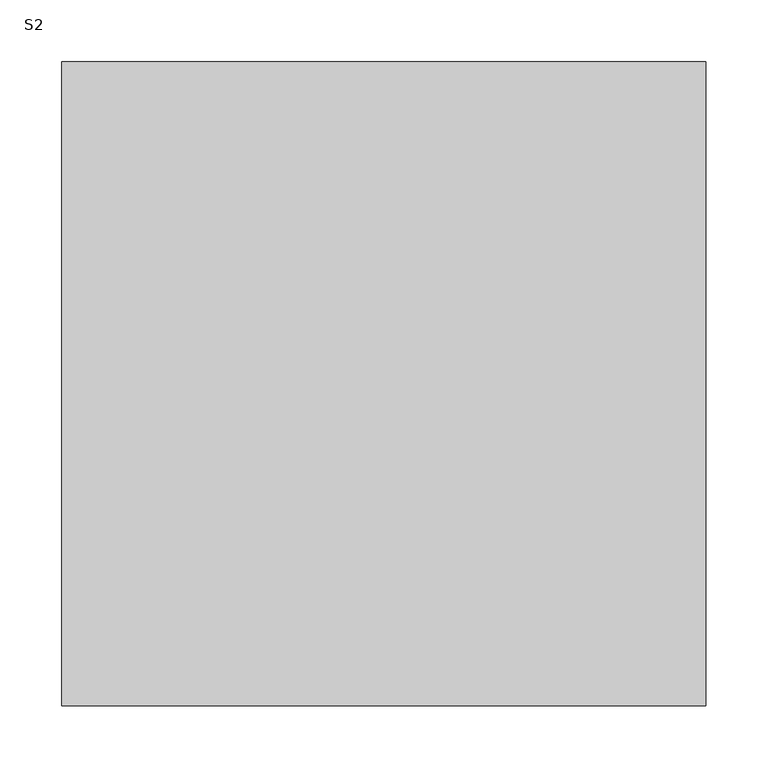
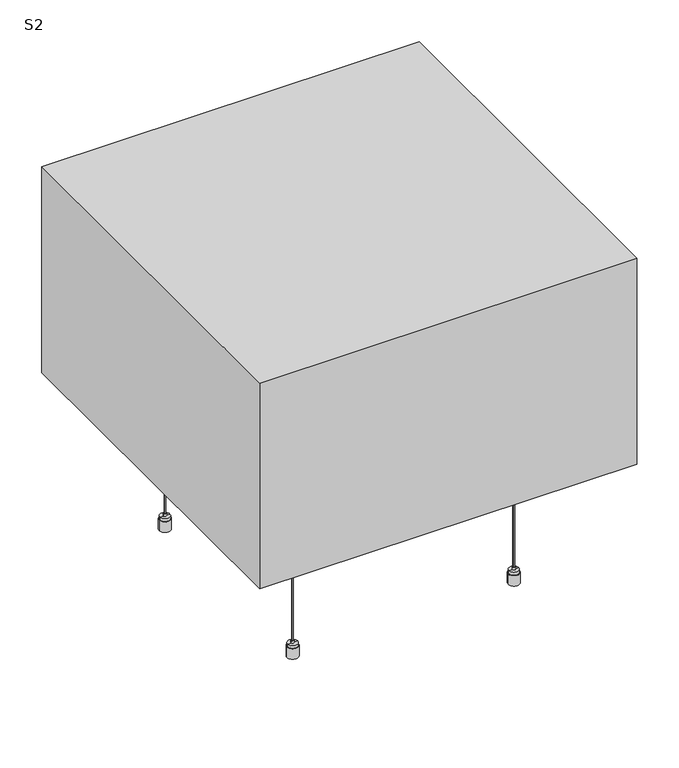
"""IFC4 building model written with IfcOpenShell, lengths in millimetres: proxy geometry, OWA Corpus : S2."""

from ifc_helpers import new_model, si_unit, point, frame, frame_2d, origin, place, context, project, spatial, polyline, circle_curve, trimmed, segment, composite_curve, outline, extrude, faceted_brep, source, transform, mapped, element, save
from ifc_brep_helpers import plane_surface, cylinder_surface, revolved_surface, advanced_brep


def s2_c28525dc(model_context):
    return source(origin(), model_context, "Body", "SolidModel", [
        advanced_brep(
        [(-281.0, -152.5, 0.0), (-273.2593825, -152.5, 0.0), (-288.7406175, -152.5, 0.0), (-273.2593825, -152.5, 15.0), (-288.7406175, -152.5, 15.0), (-274.1843825, -152.5, 15.0), (-287.8156175, -152.5, 15.0), (-274.1843825, -152.5, 19.0), (-287.8156175, -152.5, 19.0), (-278.9343825, -152.5, 19.0), (-283.0656175, -152.5, 19.0), (-278.9343825, -152.5, 22.546183), (-283.0656175, -152.5, 22.546183), (-281.0, -152.5, 22.546183)],
        [
            (0, 1),
            (1, 2, circle_curve(frame((-281.0, -152.5, 0.0), z_axis=(0.0, 0.0, -1.0), x_axis=(-1.0, 0.0, 0.0)), 7.7406175)),
            (2, 0),
            (2, 1, circle_curve(frame((-281.0, -152.5, 0.0), z_axis=(0.0, 0.0, -1.0), x_axis=(-1.0, 0.0, 0.0)), 7.7406175)),
            (1, 3),
            (3, 4, circle_curve(frame((-281.0, -152.5, 15.0), z_axis=(0.0, 0.0, -1.0), x_axis=(-1.0, 0.0, 0.0)), 7.7406175)),
            (4, 2),
            (4, 3, circle_curve(frame((-281.0, -152.5, 15.0), z_axis=(0.0, 0.0, -1.0), x_axis=(-1.0, 0.0, 0.0)), 7.7406175)),
            (3, 5),
            (5, 6, circle_curve(frame((-281.0, -152.5, 15.0), z_axis=(0.0, 0.0, -1.0), x_axis=(-1.0, 0.0, 0.0)), 6.8156175)),
            (6, 4),
            (6, 5, circle_curve(frame((-281.0, -152.5, 15.0), z_axis=(0.0, 0.0, -1.0), x_axis=(-1.0, 0.0, 0.0)), 6.8156175)),
            (5, 7),
            (7, 8, circle_curve(frame((-281.0, -152.5, 19.0), z_axis=(0.0, 0.0, -1.0), x_axis=(-1.0, 0.0, 0.0)), 6.8156175)),
            (8, 6),
            (8, 7, circle_curve(frame((-281.0, -152.5, 19.0), z_axis=(0.0, 0.0, -1.0), x_axis=(-1.0, 0.0, 0.0)), 6.8156175)),
            (7, 9),
            (9, 10, circle_curve(frame((-281.0, -152.5, 19.0), z_axis=(0.0, 0.0, -1.0), x_axis=(-1.0, 0.0, 0.0)), 2.0656175)),
            (10, 8),
            (10, 9, circle_curve(frame((-281.0, -152.5, 19.0), z_axis=(0.0, 0.0, -1.0), x_axis=(-1.0, 0.0, 0.0)), 2.0656175)),
            (9, 11),
            (11, 12, circle_curve(frame((-281.0, -152.5, 22.546183), z_axis=(0.0, 0.0, -1.0), x_axis=(-1.0, 0.0, 0.0)), 2.0656175)),
            (12, 10),
            (12, 11, circle_curve(frame((-281.0, -152.5, 22.546183), z_axis=(0.0, 0.0, -1.0), x_axis=(-1.0, 0.0, 0.0)), 2.0656175)),
            (11, 13),
            (13, 12),
        ],
        [
            plane_surface(frame((-281.0, -152.5, 0.0), z_axis=(0.0, 0.0, -1.0), x_axis=(-1.0, 0.0, 0.0))),
            cylinder_surface(frame((-281.0, -152.5, -10.0), z_axis=(0.0, 0.0, -1.0), x_axis=(-1.0, 0.0, 0.0)), 7.7406175),
            plane_surface(frame((-281.0, -152.5, 15.0), z_axis=(0.0, 0.0, 1.0), x_axis=(-1.0, 0.0, 0.0))),
            cylinder_surface(frame((-281.0, -152.5, -10.0), z_axis=(0.0, 0.0, -1.0), x_axis=(-1.0, 0.0, 0.0)), 6.8156175),
            plane_surface(frame((-281.0, -152.5, 19.0), z_axis=(0.0, 0.0, 1.0), x_axis=(-1.0, 0.0, 0.0))),
            cylinder_surface(frame((-281.0, -152.5, -10.0), z_axis=(0.0, 0.0, -1.0), x_axis=(-1.0, 0.0, 0.0)), 2.0656175),
            plane_surface(frame((-281.0, -152.5, 22.546183), z_axis=(0.0, 0.0, 1.0), x_axis=(-1.0, 0.0, 0.0))),
        ],
        [
            (0, [[1, 2, 3]]),
            (0, [[-3, 4, -1]]),
            (1, [[5, 6, 7, -2]]),
            (1, [[-7, 8, -5, -4]]),
            (2, [[9, 10, 11, -6]]),
            (2, [[-11, 12, -9, -8]]),
            (3, [[13, 14, 15, -10]]),
            (3, [[-15, 16, -13, -12]]),
            (4, [[17, 18, 19, -14]]),
            (4, [[-19, 20, -17, -16]]),
            (5, [[21, 22, 23, -18]]),
            (5, [[-23, 24, -21, -20]]),
            (6, [[25, 26, -22]]),
            (6, [[-26, -25, -24]]),
        ],
    ),
        advanced_brep(
        [(-278.7615389, -152.5, 428.8211737), (-278.6339453, -152.5, 432.8711737), (-283.3660547, -152.5, 432.8711737), (-283.2384611, -152.5, 428.8211737), (-276.1339453, -152.5, 432.8711737), (-285.8660547, -152.5, 432.8711737), (-276.1339453, -152.5, 458.1211737), (-285.8660547, -152.5, 458.1211737), (-265.1339453, -152.5, 458.1211737), (-296.8660547, -152.5, 458.1211737), (-265.1339453, -152.5, 460.0), (-296.8660547, -152.5, 460.0), (-281.0, -152.5, 460.0), (-281.0, -152.5, 428.8211737)],
        [
            (0, 1),
            (1, 2, circle_curve(frame((-281.0, -152.5, 432.8711737), z_axis=(0.0, 0.0, -1.0), x_axis=(-1.0, 0.0, 0.0)), 2.3660547)),
            (2, 3),
            (3, 0, circle_curve(frame((-281.0, -152.5, 428.8211737), z_axis=(0.0, 0.0, 1.0), x_axis=(-1.0, 0.0, 0.0)), 2.2384611)),
            (2, 1, circle_curve(frame((-281.0, -152.5, 432.8711737), z_axis=(0.0, 0.0, -1.0), x_axis=(-1.0, 0.0, 0.0)), 2.3660547)),
            (0, 3, circle_curve(frame((-281.0, -152.5, 428.8211737), z_axis=(0.0, 0.0, 1.0), x_axis=(-1.0, 0.0, 0.0)), 2.2384611)),
            (1, 4),
            (4, 5, circle_curve(frame((-281.0, -152.5, 432.8711737), z_axis=(0.0, 0.0, -1.0), x_axis=(-1.0, 0.0, 0.0)), 4.8660547)),
            (5, 2),
            (5, 4, circle_curve(frame((-281.0, -152.5, 432.8711737), z_axis=(0.0, 0.0, -1.0), x_axis=(-1.0, 0.0, 0.0)), 4.8660547)),
            (4, 6),
            (6, 7, circle_curve(frame((-281.0, -152.5, 458.1211737), z_axis=(0.0, 0.0, -1.0), x_axis=(-1.0, 0.0, 0.0)), 4.8660547)),
            (7, 5),
            (7, 6, circle_curve(frame((-281.0, -152.5, 458.1211737), z_axis=(0.0, 0.0, -1.0), x_axis=(-1.0, 0.0, 0.0)), 4.8660547)),
            (6, 8),
            (8, 9, circle_curve(frame((-281.0, -152.5, 458.1211737), z_axis=(0.0, 0.0, -1.0), x_axis=(-1.0, 0.0, 0.0)), 15.8660547)),
            (9, 7),
            (9, 8, circle_curve(frame((-281.0, -152.5, 458.1211737), z_axis=(0.0, 0.0, -1.0), x_axis=(-1.0, 0.0, 0.0)), 15.8660547)),
            (8, 10),
            (10, 11, circle_curve(frame((-281.0, -152.5, 460.0), z_axis=(0.0, 0.0, -1.0), x_axis=(-1.0, 0.0, 0.0)), 15.8660547)),
            (11, 9),
            (11, 10, circle_curve(frame((-281.0, -152.5, 460.0), z_axis=(0.0, 0.0, -1.0), x_axis=(-1.0, 0.0, 0.0)), 15.8660547)),
            (10, 12),
            (12, 11),
            (13, 0),
            (3, 13),
        ],
        [
            revolved_surface(polyline([(-283.3660547, -152.5, 432.8711737), (-283.2384611, -152.5, 428.8211737)]), (-281.0, -152.5, 461.8401096), (0.0, 0.0, -1.0)),
            plane_surface(frame((-281.0, -152.5, 432.8711737), z_axis=(0.0, 0.0, -1.0), x_axis=(-1.0, 0.0, 0.0))),
            cylinder_surface(frame((-281.0, -152.5, 461.8401096), z_axis=(0.0, 0.0, -1.0), x_axis=(-1.0, 0.0, 0.0)), 4.8660547),
            plane_surface(frame((-281.0, -152.5, 458.1211737), z_axis=(0.0, 0.0, -1.0), x_axis=(-1.0, 0.0, 0.0))),
            cylinder_surface(frame((-281.0, -152.5, 461.8401096), z_axis=(0.0, 0.0, -1.0), x_axis=(-1.0, 0.0, 0.0)), 15.8660547),
            plane_surface(frame((-281.0, -152.5, 460.0), z_axis=(0.0, 0.0, 1.0), x_axis=(-1.0, 0.0, 0.0))),
            plane_surface(frame((-281.0, -152.5, 428.8211737), z_axis=(0.0, 0.0, -1.0), x_axis=(-1.0, 0.0, 0.0))),
        ],
        [
            (0, [[1, 2, 3, 4]]),
            (0, [[-3, 5, -1, 6]]),
            (1, [[7, 8, 9, -2]]),
            (1, [[-9, 10, -7, -5]]),
            (2, [[11, 12, 13, -8]]),
            (2, [[-13, 14, -11, -10]]),
            (3, [[15, 16, 17, -12]]),
            (3, [[-17, 18, -15, -14]]),
            (4, [[19, 20, 21, -16]]),
            (4, [[-21, 22, -19, -18]]),
            (5, [[23, 24, -20]]),
            (5, [[-24, -23, -22]]),
            (6, [[25, -4, 26]]),
            (6, [[-26, -6, -25]]),
        ],
    ),
        extrude(outline(composite_curve([segment(trimmed(circle_curve(frame_2d((-281.0, -152.5)), 1.0), [point((-282.0, -152.5))], [point((-280.0, -152.5))], False, "CARTESIAN"), True, "CONTINUOUS"), segment(trimmed(circle_curve(frame_2d((-281.0, -152.5)), 1.0), [point((-280.0, -152.5))], [point((-282.0, -152.5))], False, "CARTESIAN"), True, "CONTINUOUS")], self_intersect=False)), frame((0.0, 0.0, 22.546183), z_axis=(0.0, 0.0, 1.0), x_axis=(1.0, 0.0, 0.0)), (0.0, 0.0, 1.0), 406.2749908),
        advanced_brep(
        [(-281.0, 152.5, 0.0), (-288.7406175, 152.5, 0.0), (-273.2593825, 152.5, 0.0), (-288.7406175, 152.5, 15.0), (-273.2593825, 152.5, 15.0), (-287.8156175, 152.5, 15.0), (-274.1843825, 152.5, 15.0), (-287.8156175, 152.5, 19.0), (-274.1843825, 152.5, 19.0), (-283.0656175, 152.5, 19.0), (-278.9343825, 152.5, 19.0), (-283.0656175, 152.5, 22.546183), (-278.9343825, 152.5, 22.546183), (-281.0, 152.5, 22.546183)],
        [
            (0, 1),
            (1, 2, circle_curve(frame((-281.0, 152.5, 0.0), z_axis=(0.0, 0.0, -1.0), x_axis=(-1.0, 0.0, 0.0)), 7.7406175)),
            (2, 0),
            (2, 1, circle_curve(frame((-281.0, 152.5, 0.0), z_axis=(0.0, 0.0, -1.0), x_axis=(-1.0, 0.0, 0.0)), 7.7406175)),
            (1, 3),
            (3, 4, circle_curve(frame((-281.0, 152.5, 15.0), z_axis=(0.0, 0.0, -1.0), x_axis=(-1.0, 0.0, 0.0)), 7.7406175)),
            (4, 2),
            (4, 3, circle_curve(frame((-281.0, 152.5, 15.0), z_axis=(0.0, 0.0, -1.0), x_axis=(-1.0, 0.0, 0.0)), 7.7406175)),
            (3, 5),
            (5, 6, circle_curve(frame((-281.0, 152.5, 15.0), z_axis=(0.0, 0.0, -1.0), x_axis=(-1.0, 0.0, 0.0)), 6.8156175)),
            (6, 4),
            (6, 5, circle_curve(frame((-281.0, 152.5, 15.0), z_axis=(0.0, 0.0, -1.0), x_axis=(-1.0, 0.0, 0.0)), 6.8156175)),
            (5, 7),
            (7, 8, circle_curve(frame((-281.0, 152.5, 19.0), z_axis=(0.0, 0.0, -1.0), x_axis=(-1.0, 0.0, 0.0)), 6.8156175)),
            (8, 6),
            (8, 7, circle_curve(frame((-281.0, 152.5, 19.0), z_axis=(0.0, 0.0, -1.0), x_axis=(-1.0, 0.0, 0.0)), 6.8156175)),
            (7, 9),
            (9, 10, circle_curve(frame((-281.0, 152.5, 19.0), z_axis=(0.0, 0.0, -1.0), x_axis=(-1.0, 0.0, 0.0)), 2.0656175)),
            (10, 8),
            (10, 9, circle_curve(frame((-281.0, 152.5, 19.0), z_axis=(0.0, 0.0, -1.0), x_axis=(-1.0, 0.0, 0.0)), 2.0656175)),
            (9, 11),
            (11, 12, circle_curve(frame((-281.0, 152.5, 22.546183), z_axis=(0.0, 0.0, -1.0), x_axis=(-1.0, 0.0, 0.0)), 2.0656175)),
            (12, 10),
            (12, 11, circle_curve(frame((-281.0, 152.5, 22.546183), z_axis=(0.0, 0.0, -1.0), x_axis=(-1.0, 0.0, 0.0)), 2.0656175)),
            (11, 13),
            (13, 12),
        ],
        [
            plane_surface(frame((-281.0, 152.5, 0.0), z_axis=(0.0, 0.0, -1.0), x_axis=(-1.0, 0.0, 0.0))),
            cylinder_surface(frame((-281.0, 152.5, -10.0), z_axis=(0.0, 0.0, -1.0), x_axis=(-1.0, 0.0, 0.0)), 7.7406175),
            plane_surface(frame((-281.0, 152.5, 15.0), z_axis=(0.0, 0.0, 1.0), x_axis=(-1.0, 0.0, 0.0))),
            cylinder_surface(frame((-281.0, 152.5, -10.0), z_axis=(0.0, 0.0, -1.0), x_axis=(-1.0, 0.0, 0.0)), 6.8156175),
            plane_surface(frame((-281.0, 152.5, 19.0), z_axis=(0.0, 0.0, 1.0), x_axis=(-1.0, 0.0, 0.0))),
            cylinder_surface(frame((-281.0, 152.5, -10.0), z_axis=(0.0, 0.0, -1.0), x_axis=(-1.0, 0.0, 0.0)), 2.0656175),
            plane_surface(frame((-281.0, 152.5, 22.546183), z_axis=(0.0, 0.0, 1.0), x_axis=(-1.0, 0.0, 0.0))),
        ],
        [
            (0, [[1, 2, 3]]),
            (0, [[-3, 4, -1]]),
            (1, [[-2, 5, 6, 7]]),
            (1, [[-4, -7, 8, -5]]),
            (2, [[-6, 9, 10, 11]]),
            (2, [[-8, -11, 12, -9]]),
            (3, [[-10, 13, 14, 15]]),
            (3, [[-12, -15, 16, -13]]),
            (4, [[-14, 17, 18, 19]]),
            (4, [[-16, -19, 20, -17]]),
            (5, [[-18, 21, 22, 23]]),
            (5, [[-20, -23, 24, -21]]),
            (6, [[-22, 25, 26]]),
            (6, [[-24, -26, -25]]),
        ],
    ),
        advanced_brep(
        [(-278.7615389, 152.5, 428.8211737), (-283.2384611, 152.5, 428.8211737), (-283.3660547, 152.5, 432.8711737), (-278.6339453, 152.5, 432.8711737), (-285.8660547, 152.5, 432.8711737), (-276.1339453, 152.5, 432.8711737), (-285.8660547, 152.5, 458.1211737), (-276.1339453, 152.5, 458.1211737), (-296.8660547, 152.5, 458.1211737), (-265.1339453, 152.5, 458.1211737), (-296.8660547, 152.5, 460.0), (-265.1339453, 152.5, 460.0), (-281.0, 152.5, 460.0), (-281.0, 152.5, 428.8211737)],
        [
            (0, 1, circle_curve(frame((-281.0, 152.5, 428.8211737), z_axis=(0.0, 0.0, 1.0), x_axis=(-1.0, 0.0, 0.0)), 2.2384611)),
            (1, 2),
            (2, 3, circle_curve(frame((-281.0, 152.5, 432.8711737), z_axis=(0.0, 0.0, -1.0), x_axis=(-1.0, 0.0, 0.0)), 2.3660547)),
            (3, 0),
            (1, 0, circle_curve(frame((-281.0, 152.5, 428.8211737), z_axis=(0.0, 0.0, 1.0), x_axis=(-1.0, 0.0, 0.0)), 2.2384611)),
            (3, 2, circle_curve(frame((-281.0, 152.5, 432.8711737), z_axis=(0.0, 0.0, -1.0), x_axis=(-1.0, 0.0, 0.0)), 2.3660547)),
            (2, 4),
            (4, 5, circle_curve(frame((-281.0, 152.5, 432.8711737), z_axis=(0.0, 0.0, -1.0), x_axis=(-1.0, 0.0, 0.0)), 4.8660547)),
            (5, 3),
            (5, 4, circle_curve(frame((-281.0, 152.5, 432.8711737), z_axis=(0.0, 0.0, -1.0), x_axis=(-1.0, 0.0, 0.0)), 4.8660547)),
            (4, 6),
            (6, 7, circle_curve(frame((-281.0, 152.5, 458.1211737), z_axis=(0.0, 0.0, -1.0), x_axis=(-1.0, 0.0, 0.0)), 4.8660547)),
            (7, 5),
            (7, 6, circle_curve(frame((-281.0, 152.5, 458.1211737), z_axis=(0.0, 0.0, -1.0), x_axis=(-1.0, 0.0, 0.0)), 4.8660547)),
            (6, 8),
            (8, 9, circle_curve(frame((-281.0, 152.5, 458.1211737), z_axis=(0.0, 0.0, -1.0), x_axis=(-1.0, 0.0, 0.0)), 15.8660547)),
            (9, 7),
            (9, 8, circle_curve(frame((-281.0, 152.5, 458.1211737), z_axis=(0.0, 0.0, -1.0), x_axis=(-1.0, 0.0, 0.0)), 15.8660547)),
            (8, 10),
            (10, 11, circle_curve(frame((-281.0, 152.5, 460.0), z_axis=(0.0, 0.0, -1.0), x_axis=(-1.0, 0.0, 0.0)), 15.8660547)),
            (11, 9),
            (11, 10, circle_curve(frame((-281.0, 152.5, 460.0), z_axis=(0.0, 0.0, -1.0), x_axis=(-1.0, 0.0, 0.0)), 15.8660547)),
            (10, 12),
            (12, 11),
            (13, 1),
            (0, 13),
        ],
        [
            revolved_surface(polyline([(-283.3660547, 152.5, 432.8711737), (-283.2384611, 152.5, 428.8211737)]), (-281.0, 152.5, 461.8401096), (0.0, 0.0, -1.0)),
            plane_surface(frame((-281.0, 152.5, 432.8711737), z_axis=(0.0, 0.0, -1.0), x_axis=(-1.0, 0.0, 0.0))),
            cylinder_surface(frame((-281.0, 152.5, 461.8401096), z_axis=(0.0, 0.0, -1.0), x_axis=(-1.0, 0.0, 0.0)), 4.8660547),
            plane_surface(frame((-281.0, 152.5, 458.1211737), z_axis=(0.0, 0.0, -1.0), x_axis=(-1.0, 0.0, 0.0))),
            cylinder_surface(frame((-281.0, 152.5, 461.8401096), z_axis=(0.0, 0.0, -1.0), x_axis=(-1.0, 0.0, 0.0)), 15.8660547),
            plane_surface(frame((-281.0, 152.5, 460.0), z_axis=(0.0, 0.0, 1.0), x_axis=(-1.0, 0.0, 0.0))),
            plane_surface(frame((-281.0, 152.5, 428.8211737), z_axis=(0.0, 0.0, -1.0), x_axis=(-1.0, 0.0, 0.0))),
        ],
        [
            (0, [[1, 2, 3, 4]]),
            (0, [[5, -4, 6, -2]]),
            (1, [[-3, 7, 8, 9]]),
            (1, [[-6, -9, 10, -7]]),
            (2, [[-8, 11, 12, 13]]),
            (2, [[-10, -13, 14, -11]]),
            (3, [[-12, 15, 16, 17]]),
            (3, [[-14, -17, 18, -15]]),
            (4, [[-16, 19, 20, 21]]),
            (4, [[-18, -21, 22, -19]]),
            (5, [[-20, 23, 24]]),
            (5, [[-22, -24, -23]]),
            (6, [[25, -1, 26]]),
            (6, [[-26, -5, -25]]),
        ],
    ),
        extrude(outline(composite_curve([segment(trimmed(circle_curve(frame_2d((-281.0, 152.5)), 1.0), [point((-282.0, 152.5))], [point((-280.0, 152.5))], False, "CARTESIAN"), True, "CONTINUOUS"), segment(trimmed(circle_curve(frame_2d((-281.0, 152.5)), 1.0), [point((-280.0, 152.5))], [point((-282.0, 152.5))], False, "CARTESIAN"), True, "CONTINUOUS")], self_intersect=False)), frame((0.0, 0.0, 22.546183), z_axis=(0.0, 0.0, 1.0), x_axis=(1.0, 0.0, 0.0)), (0.0, 0.0, 1.0), 406.2749908),
        advanced_brep(
        [(-586.0, -152.5, 0.0), (-578.2593825, -152.5, 0.0), (-593.7406175, -152.5, 0.0), (-578.2593825, -152.5, 15.0), (-593.7406175, -152.5, 15.0), (-579.1843825, -152.5, 15.0), (-592.8156175, -152.5, 15.0), (-579.1843825, -152.5, 19.0), (-592.8156175, -152.5, 19.0), (-583.9343825, -152.5, 19.0), (-588.0656175, -152.5, 19.0), (-583.9343825, -152.5, 22.546183), (-588.0656175, -152.5, 22.546183), (-586.0, -152.5, 22.546183)],
        [
            (0, 1),
            (1, 2, circle_curve(frame((-586.0, -152.5, 0.0), z_axis=(0.0, 0.0, -1.0), x_axis=(-1.0, 0.0, 0.0)), 7.7406175)),
            (2, 0),
            (2, 1, circle_curve(frame((-586.0, -152.5, 0.0), z_axis=(0.0, 0.0, -1.0), x_axis=(-1.0, 0.0, 0.0)), 7.7406175)),
            (1, 3),
            (3, 4, circle_curve(frame((-586.0, -152.5, 15.0), z_axis=(0.0, 0.0, -1.0), x_axis=(-1.0, 0.0, 0.0)), 7.7406175)),
            (4, 2),
            (4, 3, circle_curve(frame((-586.0, -152.5, 15.0), z_axis=(0.0, 0.0, -1.0), x_axis=(-1.0, 0.0, 0.0)), 7.7406175)),
            (3, 5),
            (5, 6, circle_curve(frame((-586.0, -152.5, 15.0), z_axis=(0.0, 0.0, -1.0), x_axis=(-1.0, 0.0, 0.0)), 6.8156175)),
            (6, 4),
            (6, 5, circle_curve(frame((-586.0, -152.5, 15.0), z_axis=(0.0, 0.0, -1.0), x_axis=(-1.0, 0.0, 0.0)), 6.8156175)),
            (5, 7),
            (7, 8, circle_curve(frame((-586.0, -152.5, 19.0), z_axis=(0.0, 0.0, -1.0), x_axis=(-1.0, 0.0, 0.0)), 6.8156175)),
            (8, 6),
            (8, 7, circle_curve(frame((-586.0, -152.5, 19.0), z_axis=(0.0, 0.0, -1.0), x_axis=(-1.0, 0.0, 0.0)), 6.8156175)),
            (7, 9),
            (9, 10, circle_curve(frame((-586.0, -152.5, 19.0), z_axis=(0.0, 0.0, -1.0), x_axis=(-1.0, 0.0, 0.0)), 2.0656175)),
            (10, 8),
            (10, 9, circle_curve(frame((-586.0, -152.5, 19.0), z_axis=(0.0, 0.0, -1.0), x_axis=(-1.0, 0.0, 0.0)), 2.0656175)),
            (9, 11),
            (11, 12, circle_curve(frame((-586.0, -152.5, 22.546183), z_axis=(0.0, 0.0, -1.0), x_axis=(-1.0, 0.0, 0.0)), 2.0656175)),
            (12, 10),
            (12, 11, circle_curve(frame((-586.0, -152.5, 22.546183), z_axis=(0.0, 0.0, -1.0), x_axis=(-1.0, 0.0, 0.0)), 2.0656175)),
            (11, 13),
            (13, 12),
        ],
        [
            plane_surface(frame((-586.0, -152.5, 0.0), z_axis=(0.0, 0.0, -1.0), x_axis=(-1.0, 0.0, 0.0))),
            cylinder_surface(frame((-586.0, -152.5, -10.0), z_axis=(0.0, 0.0, -1.0), x_axis=(-1.0, 0.0, 0.0)), 7.7406175),
            plane_surface(frame((-586.0, -152.5, 15.0), z_axis=(0.0, 0.0, 1.0), x_axis=(-1.0, 0.0, 0.0))),
            cylinder_surface(frame((-586.0, -152.5, -10.0), z_axis=(0.0, 0.0, -1.0), x_axis=(-1.0, 0.0, 0.0)), 6.8156175),
            plane_surface(frame((-586.0, -152.5, 19.0), z_axis=(0.0, 0.0, 1.0), x_axis=(-1.0, 0.0, 0.0))),
            cylinder_surface(frame((-586.0, -152.5, -10.0), z_axis=(0.0, 0.0, -1.0), x_axis=(-1.0, 0.0, 0.0)), 2.0656175),
            plane_surface(frame((-586.0, -152.5, 22.546183), z_axis=(0.0, 0.0, 1.0), x_axis=(-1.0, 0.0, 0.0))),
        ],
        [
            (0, [[1, 2, 3]]),
            (0, [[-3, 4, -1]]),
            (1, [[5, 6, 7, -2]]),
            (1, [[-7, 8, -5, -4]]),
            (2, [[9, 10, 11, -6]]),
            (2, [[-11, 12, -9, -8]]),
            (3, [[13, 14, 15, -10]]),
            (3, [[-15, 16, -13, -12]]),
            (4, [[17, 18, 19, -14]]),
            (4, [[-19, 20, -17, -16]]),
            (5, [[21, 22, 23, -18]]),
            (5, [[-23, 24, -21, -20]]),
            (6, [[25, 26, -22]]),
            (6, [[-26, -25, -24]]),
        ],
    ),
        advanced_brep(
        [(-583.7615389, -152.5, 428.8211737), (-583.6339453, -152.5, 432.8711737), (-588.3660547, -152.5, 432.8711737), (-588.2384611, -152.5, 428.8211737), (-581.1339453, -152.5, 432.8711737), (-590.8660547, -152.5, 432.8711737), (-581.1339453, -152.5, 458.1211737), (-590.8660547, -152.5, 458.1211737), (-570.1339453, -152.5, 458.1211737), (-601.8660547, -152.5, 458.1211737), (-570.1339453, -152.5, 460.0), (-601.8660547, -152.5, 460.0), (-586.0, -152.5, 460.0), (-586.0, -152.5, 428.8211737)],
        [
            (0, 1),
            (1, 2, circle_curve(frame((-586.0, -152.5, 432.8711737), z_axis=(0.0, 0.0, -1.0), x_axis=(-1.0, 0.0, 0.0)), 2.3660547)),
            (2, 3),
            (3, 0, circle_curve(frame((-586.0, -152.5, 428.8211737), z_axis=(0.0, 0.0, 1.0), x_axis=(-1.0, 0.0, 0.0)), 2.2384611)),
            (2, 1, circle_curve(frame((-586.0, -152.5, 432.8711737), z_axis=(0.0, 0.0, -1.0), x_axis=(-1.0, 0.0, 0.0)), 2.3660547)),
            (0, 3, circle_curve(frame((-586.0, -152.5, 428.8211737), z_axis=(0.0, 0.0, 1.0), x_axis=(-1.0, 0.0, 0.0)), 2.2384611)),
            (1, 4),
            (4, 5, circle_curve(frame((-586.0, -152.5, 432.8711737), z_axis=(0.0, 0.0, -1.0), x_axis=(-1.0, 0.0, 0.0)), 4.8660547)),
            (5, 2),
            (5, 4, circle_curve(frame((-586.0, -152.5, 432.8711737), z_axis=(0.0, 0.0, -1.0), x_axis=(-1.0, 0.0, 0.0)), 4.8660547)),
            (4, 6),
            (6, 7, circle_curve(frame((-586.0, -152.5, 458.1211737), z_axis=(0.0, 0.0, -1.0), x_axis=(-1.0, 0.0, 0.0)), 4.8660547)),
            (7, 5),
            (7, 6, circle_curve(frame((-586.0, -152.5, 458.1211737), z_axis=(0.0, 0.0, -1.0), x_axis=(-1.0, 0.0, 0.0)), 4.8660547)),
            (6, 8),
            (8, 9, circle_curve(frame((-586.0, -152.5, 458.1211737), z_axis=(0.0, 0.0, -1.0), x_axis=(-1.0, 0.0, 0.0)), 15.8660547)),
            (9, 7),
            (9, 8, circle_curve(frame((-586.0, -152.5, 458.1211737), z_axis=(0.0, 0.0, -1.0), x_axis=(-1.0, 0.0, 0.0)), 15.8660547)),
            (8, 10),
            (10, 11, circle_curve(frame((-586.0, -152.5, 460.0), z_axis=(0.0, 0.0, -1.0), x_axis=(-1.0, 0.0, 0.0)), 15.8660547)),
            (11, 9),
            (11, 10, circle_curve(frame((-586.0, -152.5, 460.0), z_axis=(0.0, 0.0, -1.0), x_axis=(-1.0, 0.0, 0.0)), 15.8660547)),
            (10, 12),
            (12, 11),
            (13, 0),
            (3, 13),
        ],
        [
            revolved_surface(polyline([(-588.3660547, -152.5, 432.8711737), (-588.2384611, -152.5, 428.8211737)]), (-586.0, -152.5, 461.8401096), (0.0, 0.0, -1.0)),
            plane_surface(frame((-586.0, -152.5, 432.8711737), z_axis=(0.0, 0.0, -1.0), x_axis=(-1.0, 0.0, 0.0))),
            cylinder_surface(frame((-586.0, -152.5, 461.8401096), z_axis=(0.0, 0.0, -1.0), x_axis=(-1.0, 0.0, 0.0)), 4.8660547),
            plane_surface(frame((-586.0, -152.5, 458.1211737), z_axis=(0.0, 0.0, -1.0), x_axis=(-1.0, 0.0, 0.0))),
            cylinder_surface(frame((-586.0, -152.5, 461.8401096), z_axis=(0.0, 0.0, -1.0), x_axis=(-1.0, 0.0, 0.0)), 15.8660547),
            plane_surface(frame((-586.0, -152.5, 460.0), z_axis=(0.0, 0.0, 1.0), x_axis=(-1.0, 0.0, 0.0))),
            plane_surface(frame((-586.0, -152.5, 428.8211737), z_axis=(0.0, 0.0, -1.0), x_axis=(-1.0, 0.0, 0.0))),
        ],
        [
            (0, [[1, 2, 3, 4]]),
            (0, [[-3, 5, -1, 6]]),
            (1, [[7, 8, 9, -2]]),
            (1, [[-9, 10, -7, -5]]),
            (2, [[11, 12, 13, -8]]),
            (2, [[-13, 14, -11, -10]]),
            (3, [[15, 16, 17, -12]]),
            (3, [[-17, 18, -15, -14]]),
            (4, [[19, 20, 21, -16]]),
            (4, [[-21, 22, -19, -18]]),
            (5, [[23, 24, -20]]),
            (5, [[-24, -23, -22]]),
            (6, [[25, -4, 26]]),
            (6, [[-26, -6, -25]]),
        ],
    ),
        extrude(outline(composite_curve([segment(trimmed(circle_curve(frame_2d((-586.0, -152.5)), 1.0), [point((-587.0, -152.5))], [point((-585.0, -152.5))], False, "CARTESIAN"), True, "CONTINUOUS"), segment(trimmed(circle_curve(frame_2d((-586.0, -152.5)), 1.0), [point((-585.0, -152.5))], [point((-587.0, -152.5))], False, "CARTESIAN"), True, "CONTINUOUS")], self_intersect=False)), frame((0.0, 0.0, 22.546183), z_axis=(0.0, 0.0, 1.0), x_axis=(1.0, 0.0, 0.0)), (0.0, 0.0, 1.0), 406.2749908),
        advanced_brep(
        [(-586.0, 152.5, 0.0), (-593.7406175, 152.5, 0.0), (-578.2593825, 152.5, 0.0), (-593.7406175, 152.5, 15.0), (-578.2593825, 152.5, 15.0), (-592.8156175, 152.5, 15.0), (-579.1843825, 152.5, 15.0), (-592.8156175, 152.5, 19.0), (-579.1843825, 152.5, 19.0), (-588.0656175, 152.5, 19.0), (-583.9343825, 152.5, 19.0), (-588.0656175, 152.5, 22.546183), (-583.9343825, 152.5, 22.546183), (-586.0, 152.5, 22.546183)],
        [
            (0, 1),
            (1, 2, circle_curve(frame((-586.0, 152.5, 0.0), z_axis=(0.0, 0.0, -1.0), x_axis=(-1.0, 0.0, 0.0)), 7.7406175)),
            (2, 0),
            (2, 1, circle_curve(frame((-586.0, 152.5, 0.0), z_axis=(0.0, 0.0, -1.0), x_axis=(-1.0, 0.0, 0.0)), 7.7406175)),
            (1, 3),
            (3, 4, circle_curve(frame((-586.0, 152.5, 15.0), z_axis=(0.0, 0.0, -1.0), x_axis=(-1.0, 0.0, 0.0)), 7.7406175)),
            (4, 2),
            (4, 3, circle_curve(frame((-586.0, 152.5, 15.0), z_axis=(0.0, 0.0, -1.0), x_axis=(-1.0, 0.0, 0.0)), 7.7406175)),
            (3, 5),
            (5, 6, circle_curve(frame((-586.0, 152.5, 15.0), z_axis=(0.0, 0.0, -1.0), x_axis=(-1.0, 0.0, 0.0)), 6.8156175)),
            (6, 4),
            (6, 5, circle_curve(frame((-586.0, 152.5, 15.0), z_axis=(0.0, 0.0, -1.0), x_axis=(-1.0, 0.0, 0.0)), 6.8156175)),
            (5, 7),
            (7, 8, circle_curve(frame((-586.0, 152.5, 19.0), z_axis=(0.0, 0.0, -1.0), x_axis=(-1.0, 0.0, 0.0)), 6.8156175)),
            (8, 6),
            (8, 7, circle_curve(frame((-586.0, 152.5, 19.0), z_axis=(0.0, 0.0, -1.0), x_axis=(-1.0, 0.0, 0.0)), 6.8156175)),
            (7, 9),
            (9, 10, circle_curve(frame((-586.0, 152.5, 19.0), z_axis=(0.0, 0.0, -1.0), x_axis=(-1.0, 0.0, 0.0)), 2.0656175)),
            (10, 8),
            (10, 9, circle_curve(frame((-586.0, 152.5, 19.0), z_axis=(0.0, 0.0, -1.0), x_axis=(-1.0, 0.0, 0.0)), 2.0656175)),
            (9, 11),
            (11, 12, circle_curve(frame((-586.0, 152.5, 22.546183), z_axis=(0.0, 0.0, -1.0), x_axis=(-1.0, 0.0, 0.0)), 2.0656175)),
            (12, 10),
            (12, 11, circle_curve(frame((-586.0, 152.5, 22.546183), z_axis=(0.0, 0.0, -1.0), x_axis=(-1.0, 0.0, 0.0)), 2.0656175)),
            (11, 13),
            (13, 12),
        ],
        [
            plane_surface(frame((-586.0, 152.5, 0.0), z_axis=(0.0, 0.0, -1.0), x_axis=(-1.0, 0.0, 0.0))),
            cylinder_surface(frame((-586.0, 152.5, -10.0), z_axis=(0.0, 0.0, -1.0), x_axis=(-1.0, 0.0, 0.0)), 7.7406175),
            plane_surface(frame((-586.0, 152.5, 15.0), z_axis=(0.0, 0.0, 1.0), x_axis=(-1.0, 0.0, 0.0))),
            cylinder_surface(frame((-586.0, 152.5, -10.0), z_axis=(0.0, 0.0, -1.0), x_axis=(-1.0, 0.0, 0.0)), 6.8156175),
            plane_surface(frame((-586.0, 152.5, 19.0), z_axis=(0.0, 0.0, 1.0), x_axis=(-1.0, 0.0, 0.0))),
            cylinder_surface(frame((-586.0, 152.5, -10.0), z_axis=(0.0, 0.0, -1.0), x_axis=(-1.0, 0.0, 0.0)), 2.0656175),
            plane_surface(frame((-586.0, 152.5, 22.546183), z_axis=(0.0, 0.0, 1.0), x_axis=(-1.0, 0.0, 0.0))),
        ],
        [
            (0, [[1, 2, 3]]),
            (0, [[-3, 4, -1]]),
            (1, [[-2, 5, 6, 7]]),
            (1, [[-4, -7, 8, -5]]),
            (2, [[-6, 9, 10, 11]]),
            (2, [[-8, -11, 12, -9]]),
            (3, [[-10, 13, 14, 15]]),
            (3, [[-12, -15, 16, -13]]),
            (4, [[-14, 17, 18, 19]]),
            (4, [[-16, -19, 20, -17]]),
            (5, [[-18, 21, 22, 23]]),
            (5, [[-20, -23, 24, -21]]),
            (6, [[-22, 25, 26]]),
            (6, [[-24, -26, -25]]),
        ],
    ),
        advanced_brep(
        [(-583.7615389, 152.5, 428.8211737), (-588.2384611, 152.5, 428.8211737), (-588.3660547, 152.5, 432.8711737), (-583.6339453, 152.5, 432.8711737), (-590.8660547, 152.5, 432.8711737), (-581.1339453, 152.5, 432.8711737), (-590.8660547, 152.5, 458.1211737), (-581.1339453, 152.5, 458.1211737), (-601.8660547, 152.5, 458.1211737), (-570.1339453, 152.5, 458.1211737), (-601.8660547, 152.5, 460.0), (-570.1339453, 152.5, 460.0), (-586.0, 152.5, 460.0), (-586.0, 152.5, 428.8211737)],
        [
            (0, 1, circle_curve(frame((-586.0, 152.5, 428.8211737), z_axis=(0.0, 0.0, 1.0), x_axis=(-1.0, 0.0, 0.0)), 2.2384611)),
            (1, 2),
            (2, 3, circle_curve(frame((-586.0, 152.5, 432.8711737), z_axis=(0.0, 0.0, -1.0), x_axis=(-1.0, 0.0, 0.0)), 2.3660547)),
            (3, 0),
            (1, 0, circle_curve(frame((-586.0, 152.5, 428.8211737), z_axis=(0.0, 0.0, 1.0), x_axis=(-1.0, 0.0, 0.0)), 2.2384611)),
            (3, 2, circle_curve(frame((-586.0, 152.5, 432.8711737), z_axis=(0.0, 0.0, -1.0), x_axis=(-1.0, 0.0, 0.0)), 2.3660547)),
            (2, 4),
            (4, 5, circle_curve(frame((-586.0, 152.5, 432.8711737), z_axis=(0.0, 0.0, -1.0), x_axis=(-1.0, 0.0, 0.0)), 4.8660547)),
            (5, 3),
            (5, 4, circle_curve(frame((-586.0, 152.5, 432.8711737), z_axis=(0.0, 0.0, -1.0), x_axis=(-1.0, 0.0, 0.0)), 4.8660547)),
            (4, 6),
            (6, 7, circle_curve(frame((-586.0, 152.5, 458.1211737), z_axis=(0.0, 0.0, -1.0), x_axis=(-1.0, 0.0, 0.0)), 4.8660547)),
            (7, 5),
            (7, 6, circle_curve(frame((-586.0, 152.5, 458.1211737), z_axis=(0.0, 0.0, -1.0), x_axis=(-1.0, 0.0, 0.0)), 4.8660547)),
            (6, 8),
            (8, 9, circle_curve(frame((-586.0, 152.5, 458.1211737), z_axis=(0.0, 0.0, -1.0), x_axis=(-1.0, 0.0, 0.0)), 15.8660547)),
            (9, 7),
            (9, 8, circle_curve(frame((-586.0, 152.5, 458.1211737), z_axis=(0.0, 0.0, -1.0), x_axis=(-1.0, 0.0, 0.0)), 15.8660547)),
            (8, 10),
            (10, 11, circle_curve(frame((-586.0, 152.5, 460.0), z_axis=(0.0, 0.0, -1.0), x_axis=(-1.0, 0.0, 0.0)), 15.8660547)),
            (11, 9),
            (11, 10, circle_curve(frame((-586.0, 152.5, 460.0), z_axis=(0.0, 0.0, -1.0), x_axis=(-1.0, 0.0, 0.0)), 15.8660547)),
            (10, 12),
            (12, 11),
            (13, 1),
            (0, 13),
        ],
        [
            revolved_surface(polyline([(-588.3660547, 152.5, 432.8711737), (-588.2384611, 152.5, 428.8211737)]), (-586.0, 152.5, 461.8401096), (0.0, 0.0, -1.0)),
            plane_surface(frame((-586.0, 152.5, 432.8711737), z_axis=(0.0, 0.0, -1.0), x_axis=(-1.0, 0.0, 0.0))),
            cylinder_surface(frame((-586.0, 152.5, 461.8401096), z_axis=(0.0, 0.0, -1.0), x_axis=(-1.0, 0.0, 0.0)), 4.8660547),
            plane_surface(frame((-586.0, 152.5, 458.1211737), z_axis=(0.0, 0.0, -1.0), x_axis=(-1.0, 0.0, 0.0))),
            cylinder_surface(frame((-586.0, 152.5, 461.8401096), z_axis=(0.0, 0.0, -1.0), x_axis=(-1.0, 0.0, 0.0)), 15.8660547),
            plane_surface(frame((-586.0, 152.5, 460.0), z_axis=(0.0, 0.0, 1.0), x_axis=(-1.0, 0.0, 0.0))),
            plane_surface(frame((-586.0, 152.5, 428.8211737), z_axis=(0.0, 0.0, -1.0), x_axis=(-1.0, 0.0, 0.0))),
        ],
        [
            (0, [[1, 2, 3, 4]]),
            (0, [[5, -4, 6, -2]]),
            (1, [[-3, 7, 8, 9]]),
            (1, [[-6, -9, 10, -7]]),
            (2, [[-8, 11, 12, 13]]),
            (2, [[-10, -13, 14, -11]]),
            (3, [[-12, 15, 16, 17]]),
            (3, [[-14, -17, 18, -15]]),
            (4, [[-16, 19, 20, 21]]),
            (4, [[-18, -21, 22, -19]]),
            (5, [[-20, 23, 24]]),
            (5, [[-22, -24, -23]]),
            (6, [[25, -1, 26]]),
            (6, [[-26, -5, -25]]),
        ],
    ),
        extrude(outline(composite_curve([segment(trimmed(circle_curve(frame_2d((-586.0, 152.5)), 1.0), [point((-587.0, 152.5))], [point((-585.0, 152.5))], False, "CARTESIAN"), True, "CONTINUOUS"), segment(trimmed(circle_curve(frame_2d((-586.0, 152.5)), 1.0), [point((-585.0, 152.5))], [point((-587.0, 152.5))], False, "CARTESIAN"), True, "CONTINUOUS")], self_intersect=False)), frame((0.0, 0.0, 22.546183), z_axis=(0.0, 0.0, 1.0), x_axis=(1.0, 0.0, 0.0)), (0.0, 0.0, 1.0), 406.2749908),
        faceted_brep([(-173.5, 260.0, 500.0), (-693.5, 260.0, 500.0), (-693.5, -260.0, 500.0), (-173.5, -260.0, 500.0), (-213.5, 220.0, 460.0), (-213.5, -220.0, 460.0), (-653.5, -220.0, 460.0), (-653.5, 220.0, 460.0), (-173.5, 260.0, 200.0), (-693.5, 260.0, 200.0), (-693.5, -260.0, 200.0), (-173.5, -260.0, 200.0), (-213.5, 220.0, 200.0), (-653.5, 220.0, 200.0), (-653.5, -220.0, 200.0), (-213.5, -220.0, 200.0)], [[[0, 1, 2, 3]], [[4, 5, 6, 7]], [[1, 0, 8, 9]], [[2, 1, 9, 10]], [[3, 2, 10, 11]], [[8, 0, 3, 11]], [[8, 11, 10, 9], [12, 13, 14, 15]], [[12, 15, 5, 4]], [[15, 14, 6, 5]], [[14, 13, 7, 6]], [[13, 12, 4, 7]]]),
    ])


if __name__ == "__main__":
    model = new_model("IFC4")
    model_context = context("Model", 3, world=origin())
    ifc_project = project(units=[si_unit("LENGTHUNIT", "METRE", prefix="MILLI")], contexts=[model_context])
    site = spatial("IfcSite", under=ifc_project)
    building = spatial("IfcBuilding", under=site)
    placement = place(None, origin())
    s2_shape = s2_c28525dc(model_context)
    element("IfcBuildingElementProxy", 1, Name="OWA Corpus : S2", ObjectType="OWA Corpus : S2", at=placement, inside=building, context=model_context, shape_type="MappedRepresentation", body=[
        mapped(s2_shape, transform((0.0, 0.0, 0.0), x_axis=(1.0, 0.0, 0.0), y_axis=(0.0, 1.0, 0.0), z_axis=(0.0, 0.0, 1.0))),
    ])
    save(model, "model.ifc")
